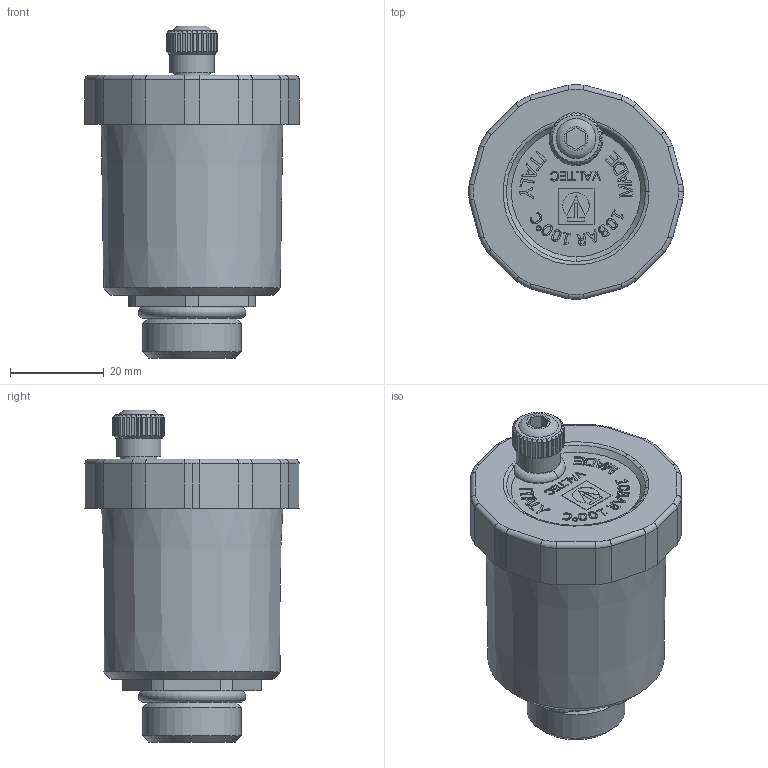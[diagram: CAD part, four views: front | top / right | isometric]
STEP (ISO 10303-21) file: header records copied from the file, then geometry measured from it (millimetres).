
FILE_DESCRIPTION(('TFLEX Exchange Step'),'2;1');
FILE_NAME('Automatic Air Vents 1_2 VT.502.NV.04.stp', '2023-09-12T15:48:20+03:00',('denis'),('Unknown organisation'),'TFLEX Exchange 2023.0','T-FLEX CAD','Unknown authorisation');
FILE_SCHEMA( ('AUTOMOTIVE_DESIGN { 1 0 10303 214 1 1 1 1 }') );
Length unit declared in the file: millimetre
Products named in the file (1): Nodes
Bounding box: 45.8 x 45.79 x 70.96 mm (x, y, z)
Volume: 61802.4 mm3; surface area: 12030.5 mm2
Topology: 3 solids, 4 shells, 609 faces, 1526 edges, 970 vertices
Faces by surface type: plane 309, bspline 135, cylinder 76, cone 70, torus 19
Full cylindrical faces by diameter (mm): 0.753 x1, 1.117 x1, 7.8 x1, 9.5 x1, 14 x1, 15 x1, 17.9 x1, 21 x1
Entity records: 23894 total; most frequent: CARTESIAN_POINT 10789, ORIENTED_EDGE 3048, DIRECTION 2126, EDGE_CURVE 1524, VERTEX_POINT 970, VECTOR 772, LINE 772, AXIS2_PLACEMENT_3D 677
